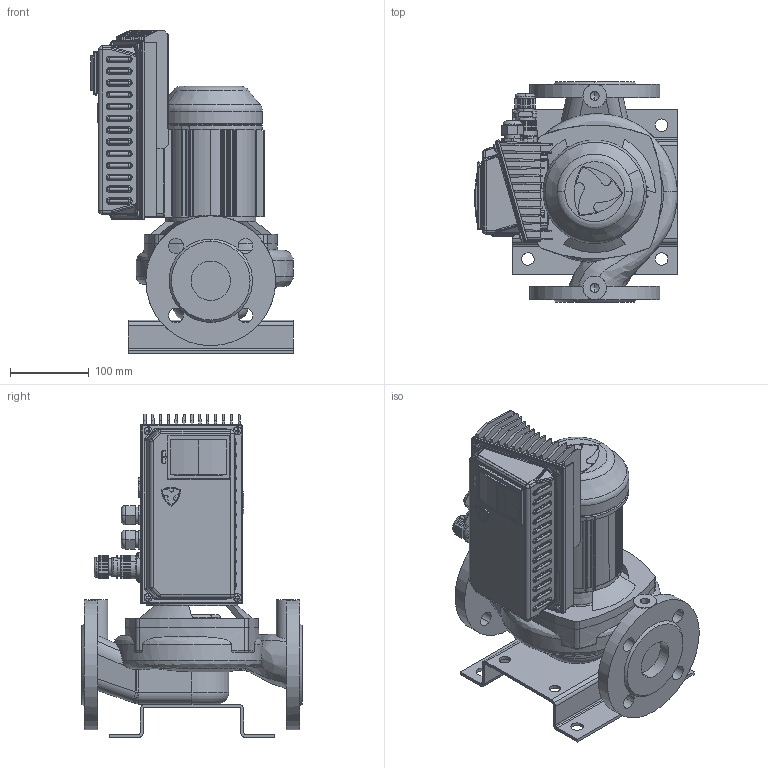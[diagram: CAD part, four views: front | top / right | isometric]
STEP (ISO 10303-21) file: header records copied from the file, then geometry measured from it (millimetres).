
FILE_DESCRIPTION(('STEP AP214'),'1');
FILE_NAME('export.stp','2018-05-31T12:04:12',(' '),(' '),'Spatial InterOp 3D',' ',' ');
FILE_SCHEMA(('AUTOMOTIVE_DESIGN { 1 0 10303 214 1 1 1 1 }'));
Length unit declared in the file: millimetre
Products named in the file (34): W_L50A4200_SC_OP; V_TLL50ABC; V_PPL50ABC; V_JALKA35973; V_EKF15OP7; P100471; P100466; P100453; P100467; DIN_7985-M5x12; P100515; P100512; P100513; P100514; P100509; ontto_sylinteri; DIN_7985-M3x12; P100606; P100607; P100565; P100567; P100566; P100569; P100581; P101504; P101332; PART3; PART4; V_MOP752_SC; V_MOP752753762_SC; RU_OP_752_753_762; TSUOJA_OP_7
Assembly tree (38 placements, depth 5):
  W_L50A4200_SC_OP
    V_TLL50ABC
    V_PPL50ABC
    V_JALKA35973
    V_EKF15OP7
    V_MOP752_SC
      P100471
        P100466
        P100453
        P100467
        DIN_7985-M5x12  x4
        P100515
          P100512
          P100513
          P100514
          P100509
          ontto_sylinteri
        DIN_7985-M3x12  x2
        P100606
          P100607
          P100565
          ontto_sylinteri
        P100567
          P100566
          P100565
          ontto_sylinteri
        P100569
        P100581
        P101504
        P101332
          PART3
          PART4
      V_MOP752753762_SC
        RU_OP_752_753_762
        TSUOJA_OP_7
Bounding box: 257.71 x 280 x 411.59 mm (x, y, z)
Volume: 4498772.5 mm3; surface area: 947063.2 mm2
Topology: 31 solids, 31 shells, 2413 faces, 6394 edges, 4086 vertices
Faces by surface type: plane 1084, cylinder 936, torus 141, cone 111, sphere 96, bspline 45
Entity records: 104515 total; most frequent: CARTESIAN_POINT 18923, DIRECTION 13038, ORIENTED_EDGE 12128, EDGE_CURVE 6064, AXIS2_PLACEMENT_3D 4914, VERTEX_POINT 3912, STYLED_ITEM 3795, PRESENTATION_STYLE_ASSIGNMENT 3795
